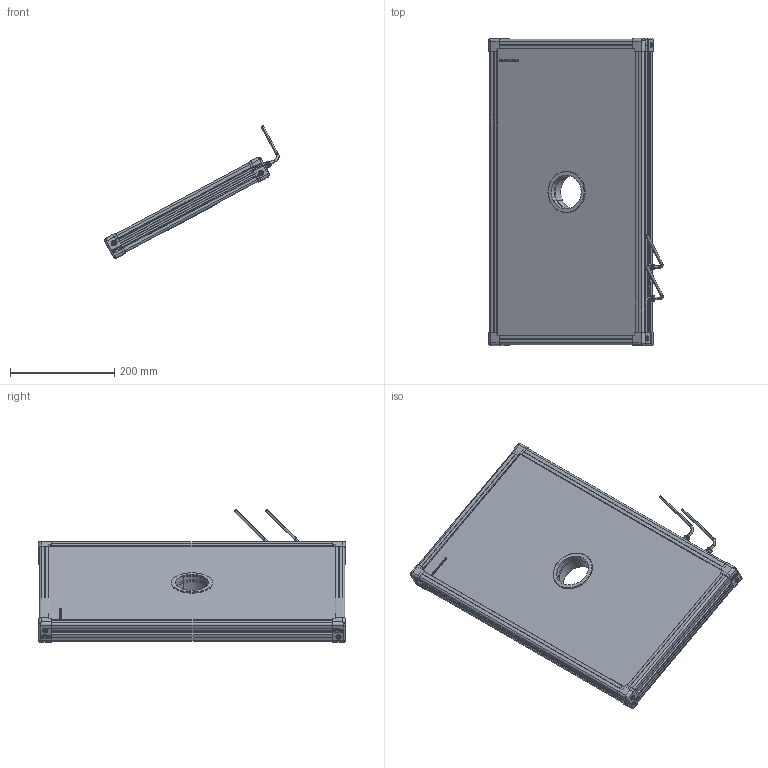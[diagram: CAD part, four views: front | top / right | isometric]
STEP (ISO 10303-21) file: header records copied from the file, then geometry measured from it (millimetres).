
FILE_DESCRIPTION (( 'STEP AP214' ), '1' );
FILE_NAME ('EFFI-FD-300-550-ZZZ-2M12.STEP', '2021-06-23T10:33:49', ( '' ), ( '' ), 'SwSTEP 2.0', 'SolidWorks 2021', '' );
FILE_SCHEMA (( 'AUTOMOTIVE_DESIGN' ));
Length unit declared in the file: millimetre
Products named in the file (13): 004409; Assemblage Ø65; petite joue + vis; EFFI-FD-300-550-ZZZ-2M12; 000629; 000590; profile Y_PERCE; Pièce13^EFFI-FD-XXX-YYY-ZZZ (2 connecteurs) Ø65; petite joue; cordon_Avec cable; profile X_PERCE; 004408
Assembly tree (20 placements, depth 3):
  EFFI-FD-300-550-ZZZ-2M12
    profile X_PERCE  x2
    profile Y_PERCE
    profile Y_PERCE
    Pièce13^EFFI-FD-XXX-YYY-ZZZ (2 connecteurs) Ø65
    petite joue + vis  x4
      petite joue
      000629
    Assemblage Ø65
      004408
      004409
      000590  x3
    cordon_Avec cable  x2
Bounding box: 334.38 x 589 x 253.79 mm (x, y, z)
Volume: 6790977.1 mm3; surface area: 713640.8 mm2
Topology: 22 solids, 34 shells, 4049 faces, 10756 edges, 7058 vertices
Faces by surface type: plane 2496, cylinder 741, bspline 603, cone 156, torus 45, sphere 8
Entity records: 57059 total; most frequent: CARTESIAN_POINT 22766, ORIENTED_EDGE 7140, DIRECTION 5899, EDGE_CURVE 3574, LINE 2493, VECTOR 2493, VERTEX_POINT 2349, AXIS2_PLACEMENT_3D 1703
